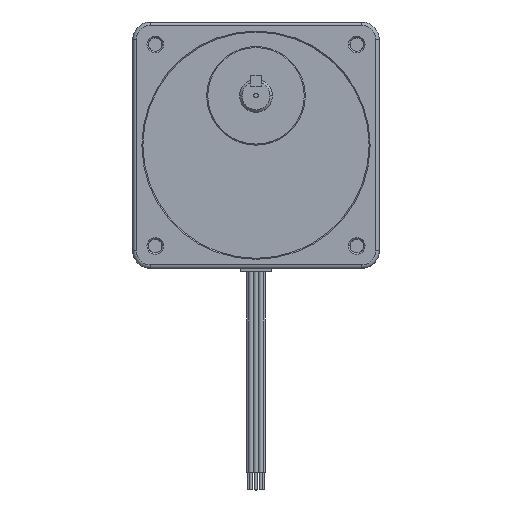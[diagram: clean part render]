
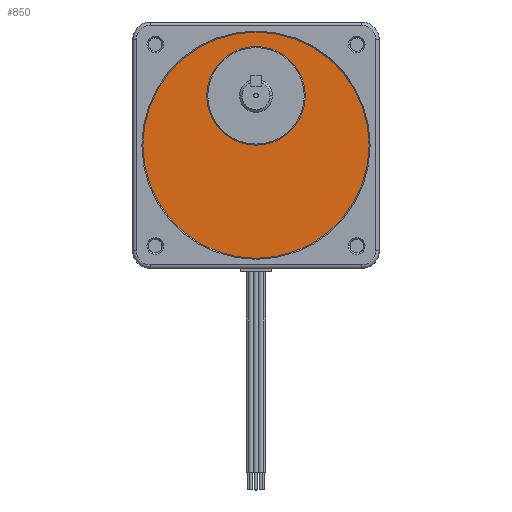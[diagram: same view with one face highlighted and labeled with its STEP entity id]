
A CAD part, top view. The second image highlights one B-rep face of the part: STEP entity #850.
In plain terms, the highlighted planar face has unit normal (0, 0, 1).
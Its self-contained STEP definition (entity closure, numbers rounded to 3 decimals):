
#703 = VERTEX_POINT ( 'NONE', #3110 ) ;
#739 = EDGE_LOOP ( 'NONE', ( #906, #851 ) ) ;
#789 = VERTEX_POINT ( 'NONE', #3283 ) ;
#822 = EDGE_CURVE ( 'NONE', #984, #904, #3293, .T. ) ;
#850 = ADVANCED_FACE ( 'NONE', ( #3387, #3419 ), #3364, .T. ) ;
#851 = ORIENTED_EDGE ( 'NONE', *, *, #19143, .T. ) ;
#898 = EDGE_CURVE ( 'NONE', #789, #703, #3524, .T. ) ;
#904 = VERTEX_POINT ( 'NONE', #3563 ) ;
#906 = ORIENTED_EDGE ( 'NONE', *, *, #898, .T. ) ;
#908 = EDGE_LOOP ( 'NONE', ( #937, #932 ) ) ;
#932 = ORIENTED_EDGE ( 'NONE', *, *, #822, .F. ) ;
#933 = EDGE_CURVE ( 'NONE', #904, #984, #3602, .T. ) ;
#937 = ORIENTED_EDGE ( 'NONE', *, *, #933, .F. ) ;
#984 = VERTEX_POINT ( 'NONE', #3756 ) ;
#3110 = CARTESIAN_POINT ( 'NONE',  ( -41.275, 0., 59. ) ) ;
#3283 = CARTESIAN_POINT ( 'NONE',  ( 41.275, 0., 59. ) ) ;
#3293 = CIRCLE ( 'NONE', #3348, 17.996 ) ;
#3344 = DIRECTION ( 'NONE',  ( 1., 0., 0. ) ) ;
#3345 = DIRECTION ( 'NONE',  ( 0., 0., 1. ) ) ;
#3348 = AXIS2_PLACEMENT_3D ( 'NONE', #3354, #3345, #3344 ) ;
#3354 = CARTESIAN_POINT ( 'NONE',  ( 0., 18.009, 59. ) ) ;
#3364 = PLANE ( 'NONE',  #3391 ) ;
#3387 = FACE_OUTER_BOUND ( 'NONE', #739, .T. ) ;
#3391 = AXIS2_PLACEMENT_3D ( 'NONE', #3459, #3458, #3457 ) ;
#3419 = FACE_BOUND ( 'NONE', #908, .T. ) ;
#3457 = DIRECTION ( 'NONE',  ( 1., 0., 0. ) ) ;
#3458 = DIRECTION ( 'NONE',  ( 0., 0., 1. ) ) ;
#3459 = CARTESIAN_POINT ( 'NONE',  ( 0., 0., 59. ) ) ;
#3522 = DIRECTION ( 'NONE',  ( 1., 0., 0. ) ) ;
#3523 = AXIS2_PLACEMENT_3D ( 'NONE', #3542, #3533, #3522 ) ;
#3524 = CIRCLE ( 'NONE', #3523, 41.275 ) ;
#3533 = DIRECTION ( 'NONE',  ( 0., 0., 1. ) ) ;
#3542 = CARTESIAN_POINT ( 'NONE',  ( 0., 0., 59. ) ) ;
#3563 = CARTESIAN_POINT ( 'NONE',  ( -17.996, 18.009, 59. ) ) ;
#3602 = CIRCLE ( 'NONE', #3617, 17.996 ) ;
#3617 = AXIS2_PLACEMENT_3D ( 'NONE', #3618, #3658, #3657 ) ;
#3618 = CARTESIAN_POINT ( 'NONE',  ( 0., 18.009, 59. ) ) ;
#3657 = DIRECTION ( 'NONE',  ( 1., 0., 0. ) ) ;
#3658 = DIRECTION ( 'NONE',  ( 0., 0., 1. ) ) ;
#3756 = CARTESIAN_POINT ( 'NONE',  ( 17.996, 18.009, 59. ) ) ;
#15023 = CARTESIAN_POINT ( 'NONE',  ( 0., 0., 59. ) ) ;
#15066 = DIRECTION ( 'NONE',  ( 1., 0., 0. ) ) ;
#15067 = DIRECTION ( 'NONE',  ( 0., 0., 1. ) ) ;
#15068 = AXIS2_PLACEMENT_3D ( 'NONE', #15023, #15067, #15066 ) ;
#15069 = CIRCLE ( 'NONE', #15068, 41.275 ) ;
#19143 = EDGE_CURVE ( 'NONE', #703, #789, #15069, .T. ) ;
